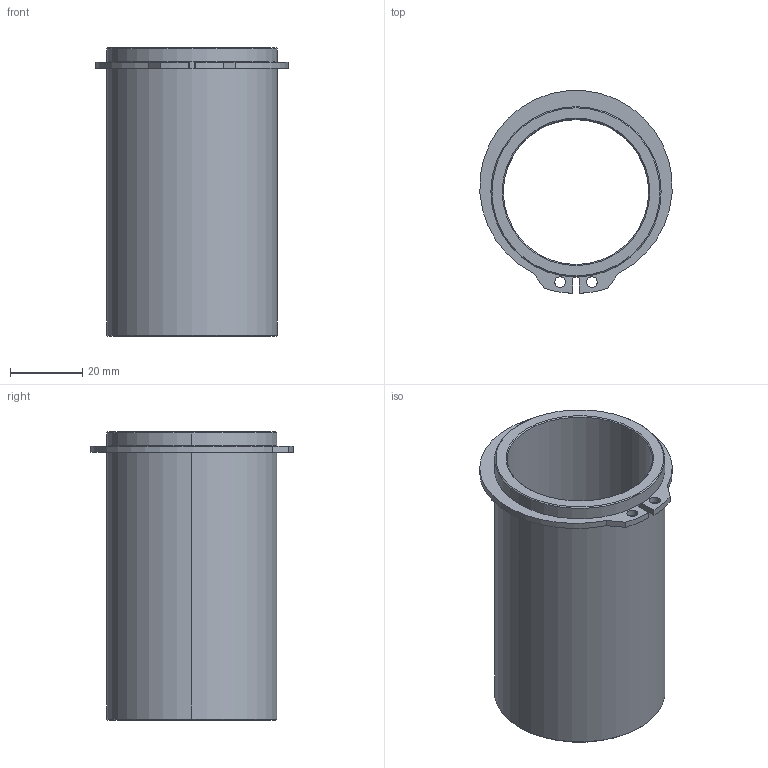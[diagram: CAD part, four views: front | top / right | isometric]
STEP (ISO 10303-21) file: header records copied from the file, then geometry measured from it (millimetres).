
FILE_DESCRIPTION((''),'2;1');
FILE_NAME('C13_040_080.stp','2008-12-17T16:05:59',(''),(''),'Mechanical Desktop 2009','Mechanical Desktop 2009',', , ');
FILE_SCHEMA(('CONFIG_CONTROL_DESIGN'));
Length unit declared in the file: millimetre
Products named in the file (2): Product; blmdl1
Assembly tree (1 placements, depth 2):
  Product
    blmdl1
Bounding box: 53.33 x 56.26 x 80 mm (x, y, z)
Volume: 38863.8 mm3; surface area: 25056.2 mm2
Topology: 2 solids, 2 shells, 34 faces, 76 edges, 48 vertices
Faces by surface type: cylinder 16, plane 10, cone 8
Entity records: 1075 total; most frequent: DIRECTION 188, CARTESIAN_POINT 160, ORIENTED_EDGE 152, AXIS2_PLACEMENT_3D 76, EDGE_CURVE 76, VERTEX_POINT 48, EDGE_LOOP 42, CIRCLE 40
